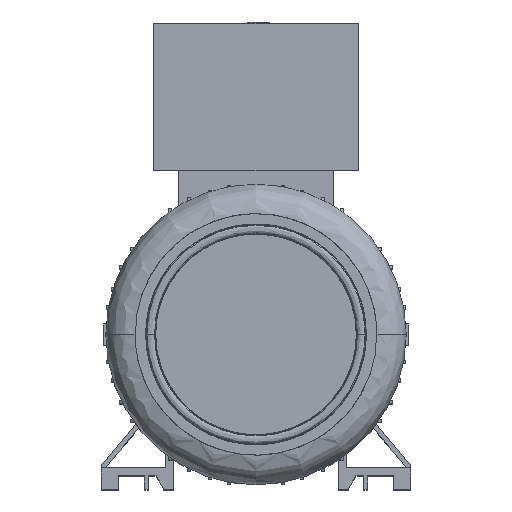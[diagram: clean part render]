
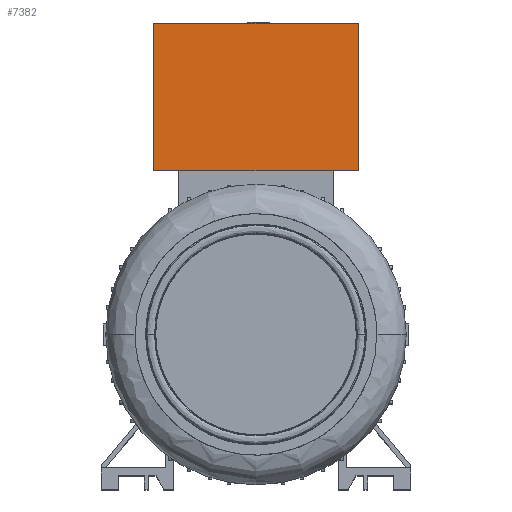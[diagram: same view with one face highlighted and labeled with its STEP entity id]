
A CAD part, top view. The second image highlights one B-rep face of the part: STEP entity #7382.
In plain terms, the highlighted planar face has unit normal (0, 0, 1).
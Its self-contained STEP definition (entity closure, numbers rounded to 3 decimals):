
#2661 = EDGE_CURVE ( 'NONE', #12054, #20366, #4142, .T. ) ;
#4010 = PLANE ( 'NONE',  #22293 ) ;
#4142 = LINE ( 'NONE', #4329, #11843 ) ;
#4329 = CARTESIAN_POINT ( 'NONE',  ( 66., -84.919, 40. ) ) ;
#6990 = DIRECTION ( 'NONE',  ( -1., 0., 0. ) ) ;
#7270 = CARTESIAN_POINT ( 'NONE',  ( -66., 106., 40. ) ) ;
#7318 = ORIENTED_EDGE ( 'NONE', *, *, #2661, .T. ) ;
#7382 = ADVANCED_FACE ( 'NONE', ( #24627 ), #4010, .T. ) ;
#7438 = ORIENTED_EDGE ( 'NONE', *, *, #15407, .F. ) ;
#8479 = CARTESIAN_POINT ( 'NONE',  ( 66., 201., 40. ) ) ;
#9152 = DIRECTION ( 'NONE',  ( 1., 0., 0. ) ) ;
#9377 = DIRECTION ( 'NONE',  ( 0., 0., 1. ) ) ;
#9477 = CARTESIAN_POINT ( 'NONE',  ( -66., 106., 40. ) ) ;
#11786 = CARTESIAN_POINT ( 'NONE',  ( 66., 106., 40. ) ) ;
#11843 = VECTOR ( 'NONE', #19709, 1000. ) ;
#12005 = LINE ( 'NONE', #24502, #16830 ) ;
#12054 = VERTEX_POINT ( 'NONE', #11786 ) ;
#13755 = ORIENTED_EDGE ( 'NONE', *, *, #23960, .F. ) ;
#15407 = EDGE_CURVE ( 'NONE', #18712, #20366, #12005, .T. ) ;
#15424 = LINE ( 'NONE', #21392, #18631 ) ;
#16830 = VECTOR ( 'NONE', #19180, 1000. ) ;
#17162 = EDGE_CURVE ( 'NONE', #12054, #22336, #26220, .T. ) ;
#17645 = CARTESIAN_POINT ( 'NONE',  ( -66., 201., 40. ) ) ;
#17771 = EDGE_LOOP ( 'NONE', ( #7318, #7438, #13755, #26944 ) ) ;
#18631 = VECTOR ( 'NONE', #24112, 1000. ) ;
#18712 = VERTEX_POINT ( 'NONE', #17645 ) ;
#19180 = DIRECTION ( 'NONE',  ( 1., 0., 0. ) ) ;
#19492 = CARTESIAN_POINT ( 'NONE',  ( -66., -84.919, 40. ) ) ;
#19709 = DIRECTION ( 'NONE',  ( 0., 1., 0. ) ) ;
#20366 = VERTEX_POINT ( 'NONE', #8479 ) ;
#21392 = CARTESIAN_POINT ( 'NONE',  ( -66., -84.919, 40. ) ) ;
#22293 = AXIS2_PLACEMENT_3D ( 'NONE', #19492, #9377, #9152 ) ;
#22336 = VERTEX_POINT ( 'NONE', #7270 ) ;
#23960 = EDGE_CURVE ( 'NONE', #22336, #18712, #15424, .T. ) ;
#24112 = DIRECTION ( 'NONE',  ( 0., 1., 0. ) ) ;
#24502 = CARTESIAN_POINT ( 'NONE',  ( -66., 201., 40. ) ) ;
#24627 = FACE_OUTER_BOUND ( 'NONE', #17771, .T. ) ;
#26220 = LINE ( 'NONE', #9477, #31016 ) ;
#26944 = ORIENTED_EDGE ( 'NONE', *, *, #17162, .F. ) ;
#31016 = VECTOR ( 'NONE', #6990, 1000. ) ;
